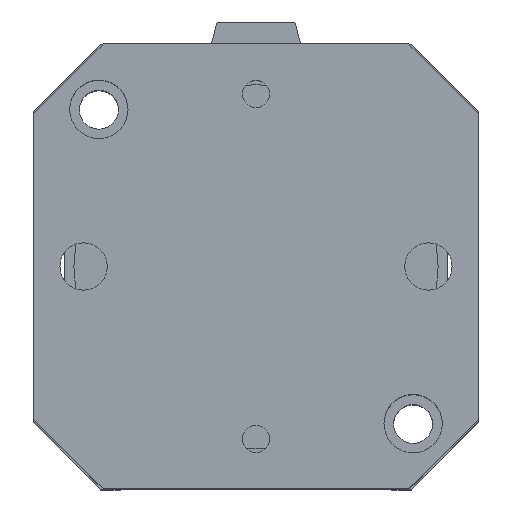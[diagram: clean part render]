
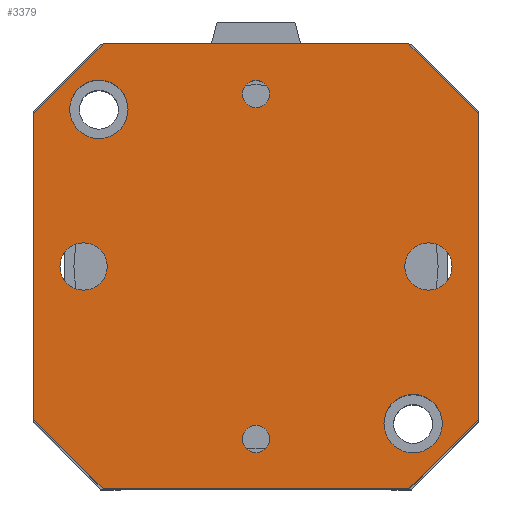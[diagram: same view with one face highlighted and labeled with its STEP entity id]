
A CAD part, top view. The second image highlights one B-rep face of the part: STEP entity #3379.
In plain terms, the highlighted planar face has unit normal (0, 0, 1).
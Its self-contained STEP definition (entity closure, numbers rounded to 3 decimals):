
#265=LINE('',#5630,#519);
#267=LINE('',#5634,#521);
#269=LINE('',#5638,#523);
#271=LINE('',#5642,#525);
#273=LINE('',#5646,#527);
#275=LINE('',#5650,#529);
#277=LINE('',#5654,#531);
#279=LINE('',#5657,#533);
#519=VECTOR('',#4681,55.);
#521=VECTOR('',#4685,17.678);
#523=VECTOR('',#4689,55.);
#525=VECTOR('',#4693,17.678);
#527=VECTOR('',#4697,55.);
#529=VECTOR('',#4701,17.678);
#531=VECTOR('',#4705,55.);
#533=VECTOR('',#4709,17.678);
#627=PLANE('',#3743);
#716=FACE_BOUND('',#1138,.T.);
#717=FACE_BOUND('',#1139,.T.);
#718=FACE_BOUND('',#1140,.T.);
#719=FACE_BOUND('',#1141,.T.);
#720=FACE_BOUND('',#1142,.T.);
#721=FACE_BOUND('',#1143,.T.);
#722=FACE_BOUND('',#1144,.T.);
#1138=EDGE_LOOP('',(#2914));
#1139=EDGE_LOOP('',(#2915));
#1140=EDGE_LOOP('',(#2916));
#1141=EDGE_LOOP('',(#2917));
#1142=EDGE_LOOP('',(#2918));
#1143=EDGE_LOOP('',(#2919));
#1144=EDGE_LOOP('',(#2920,#2921,#2922,#2923,#2924,#2925,#2926,#2927));
#1309=CIRCLE('',#3699,2.459);
#1311=CIRCLE('',#3702,2.459);
#1316=CIRCLE('',#3710,4.25);
#1320=CIRCLE('',#3717,4.25);
#1329=CIRCLE('',#3732,5.25);
#1330=CIRCLE('',#3734,5.25);
#1601=VERTEX_POINT('',#5548);
#1603=VERTEX_POINT('',#5553);
#1608=VERTEX_POINT('',#5566);
#1612=VERTEX_POINT('',#5577);
#1631=VERTEX_POINT('',#5621);
#1632=VERTEX_POINT('',#5624);
#1633=VERTEX_POINT('',#5627);
#1634=VERTEX_POINT('',#5629);
#1635=VERTEX_POINT('',#5633);
#1636=VERTEX_POINT('',#5637);
#1637=VERTEX_POINT('',#5641);
#1638=VERTEX_POINT('',#5645);
#1639=VERTEX_POINT('',#5649);
#1640=VERTEX_POINT('',#5653);
#2025=EDGE_CURVE('',#1601,#1601,#1309,.T.);
#2027=EDGE_CURVE('',#1603,#1603,#1311,.T.);
#2032=EDGE_CURVE('',#1608,#1608,#1316,.T.);
#2036=EDGE_CURVE('',#1612,#1612,#1320,.T.);
#2055=EDGE_CURVE('',#1631,#1631,#1329,.T.);
#2056=EDGE_CURVE('',#1632,#1632,#1330,.T.);
#2058=EDGE_CURVE('',#1634,#1633,#265,.T.);
#2060=EDGE_CURVE('',#1635,#1634,#267,.T.);
#2062=EDGE_CURVE('',#1636,#1635,#269,.T.);
#2064=EDGE_CURVE('',#1637,#1636,#271,.T.);
#2066=EDGE_CURVE('',#1638,#1637,#273,.T.);
#2068=EDGE_CURVE('',#1639,#1638,#275,.T.);
#2070=EDGE_CURVE('',#1640,#1639,#277,.T.);
#2072=EDGE_CURVE('',#1633,#1640,#279,.T.);
#2914=ORIENTED_EDGE('',*,*,#2025,.T.);
#2915=ORIENTED_EDGE('',*,*,#2027,.T.);
#2916=ORIENTED_EDGE('',*,*,#2032,.T.);
#2917=ORIENTED_EDGE('',*,*,#2036,.T.);
#2918=ORIENTED_EDGE('',*,*,#2055,.T.);
#2919=ORIENTED_EDGE('',*,*,#2056,.T.);
#2920=ORIENTED_EDGE('',*,*,#2072,.T.);
#2921=ORIENTED_EDGE('',*,*,#2070,.T.);
#2922=ORIENTED_EDGE('',*,*,#2068,.T.);
#2923=ORIENTED_EDGE('',*,*,#2066,.T.);
#2924=ORIENTED_EDGE('',*,*,#2064,.T.);
#2925=ORIENTED_EDGE('',*,*,#2062,.T.);
#2926=ORIENTED_EDGE('',*,*,#2060,.T.);
#2927=ORIENTED_EDGE('',*,*,#2058,.T.);
#3379=ADVANCED_FACE('',(#716,#717,#718,#719,#720,#721,#722),#627,.T.);
#3699=AXIS2_PLACEMENT_3D('',#5549,#4596,#4597);
#3702=AXIS2_PLACEMENT_3D('',#5554,#4602,#4603);
#3710=AXIS2_PLACEMENT_3D('',#5567,#4618,#4619);
#3717=AXIS2_PLACEMENT_3D('',#5578,#4632,#4633);
#3732=AXIS2_PLACEMENT_3D('',#5622,#4672,#4673);
#3734=AXIS2_PLACEMENT_3D('',#5625,#4676,#4677);
#3743=AXIS2_PLACEMENT_3D('',#5658,#4710,#4711);
#4596=DIRECTION('center_axis',(0.,0.,-1.));
#4597=DIRECTION('ref_axis',(1.,0.,0.));
#4602=DIRECTION('center_axis',(0.,0.,-1.));
#4603=DIRECTION('ref_axis',(1.,0.,0.));
#4618=DIRECTION('center_axis',(0.,0.,-1.));
#4619=DIRECTION('ref_axis',(1.,0.,0.));
#4632=DIRECTION('center_axis',(0.,0.,-1.));
#4633=DIRECTION('ref_axis',(1.,0.,0.));
#4672=DIRECTION('center_axis',(0.,0.,-1.));
#4673=DIRECTION('ref_axis',(-1.,0.,0.));
#4676=DIRECTION('center_axis',(0.,0.,-1.));
#4677=DIRECTION('ref_axis',(-1.,0.,0.));
#4681=DIRECTION('',(0.,1.,0.));
#4685=DIRECTION('',(0.707,0.707,0.));
#4689=DIRECTION('',(1.,0.,0.));
#4693=DIRECTION('',(0.707,-0.707,0.));
#4697=DIRECTION('',(0.,-1.,0.));
#4701=DIRECTION('',(-0.707,-0.707,0.));
#4705=DIRECTION('',(-1.,0.,0.));
#4709=DIRECTION('',(-0.707,0.707,0.));
#4710=DIRECTION('center_axis',(0.,0.,1.));
#4711=DIRECTION('ref_axis',(1.,0.,0.));
#5548=CARTESIAN_POINT('',(-33.459,0.,77.25));
#5549=CARTESIAN_POINT('Origin',(-31.,0.,77.25));
#5553=CARTESIAN_POINT('',(28.542,0.,77.25));
#5554=CARTESIAN_POINT('Origin',(31.,0.,77.25));
#5566=CARTESIAN_POINT('',(-4.25,31.,77.25));
#5567=CARTESIAN_POINT('Origin',(0.,31.,77.25));
#5577=CARTESIAN_POINT('',(-4.25,-31.,77.25));
#5578=CARTESIAN_POINT('Origin',(0.,-31.,77.25));
#5621=CARTESIAN_POINT('',(-23.,-28.25,77.25));
#5622=CARTESIAN_POINT('Origin',(-28.25,-28.25,77.25));
#5624=CARTESIAN_POINT('',(33.5,28.25,77.25));
#5625=CARTESIAN_POINT('Origin',(28.25,28.25,77.25));
#5627=CARTESIAN_POINT('',(40.,27.5,77.25));
#5629=CARTESIAN_POINT('',(40.,-27.5,77.25));
#5630=CARTESIAN_POINT('',(40.,27.5,77.25));
#5633=CARTESIAN_POINT('',(27.5,-40.,77.25));
#5634=CARTESIAN_POINT('',(40.,-27.5,77.25));
#5637=CARTESIAN_POINT('',(-27.5,-40.,77.25));
#5638=CARTESIAN_POINT('',(27.5,-40.,77.25));
#5641=CARTESIAN_POINT('',(-40.,-27.5,77.25));
#5642=CARTESIAN_POINT('',(-27.5,-40.,77.25));
#5645=CARTESIAN_POINT('',(-40.,27.5,77.25));
#5646=CARTESIAN_POINT('',(-40.,-27.5,77.25));
#5649=CARTESIAN_POINT('',(-27.5,40.,77.25));
#5650=CARTESIAN_POINT('',(-40.,27.5,77.25));
#5653=CARTESIAN_POINT('',(27.5,40.,77.25));
#5654=CARTESIAN_POINT('',(-27.5,40.,77.25));
#5657=CARTESIAN_POINT('',(27.5,40.,77.25));
#5658=CARTESIAN_POINT('Origin',(0.,0.,
77.25));
